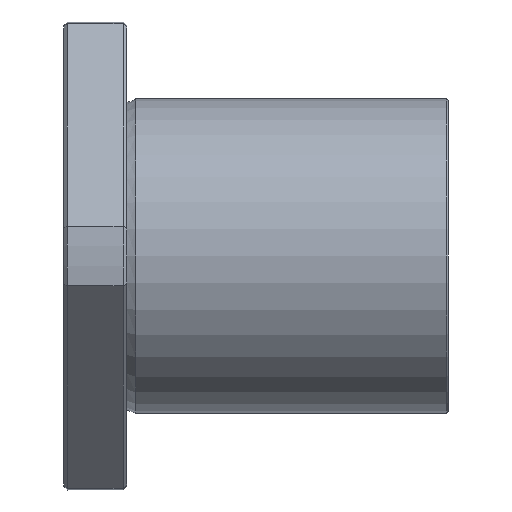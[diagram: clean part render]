
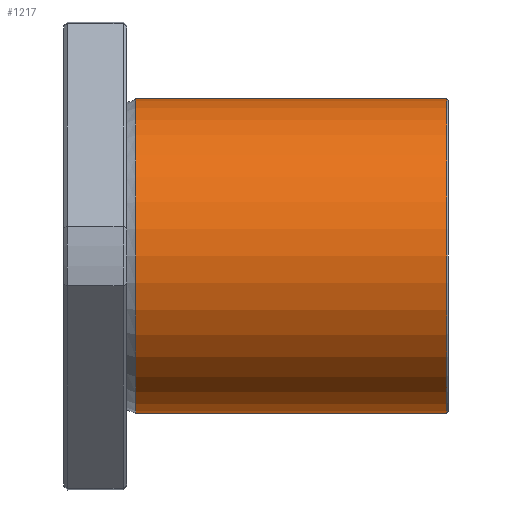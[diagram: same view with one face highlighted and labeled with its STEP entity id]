
A CAD part, front view. The second image highlights one B-rep face of the part: STEP entity #1217.
In plain terms, the highlighted cylindrical face has radius 45 mm (diameter 90 mm), a full revolution.
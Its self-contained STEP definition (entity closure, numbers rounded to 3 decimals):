
#1183=CARTESIAN_POINT('',(109.527,0.0,45.));
#1184=VERTEX_POINT('',#1183);
#1185=CARTESIAN_POINT('',(109.527,0.0,0.0));
#1186=DIRECTION('',(-1.0,0.0,0.0));
#1187=DIRECTION('',(0.0,0.0,1.0));
#1188=AXIS2_PLACEMENT_3D('',#1185,#1186,#1187);
#1189=CIRCLE('',#1188,45.);
#1190=EDGE_CURVE('',#1184,#1184,#1189,.T.);
#1198=CARTESIAN_POINT('',(65.036,0.0,0.0));
#1199=DIRECTION('',(-1.0,0.0,0.0));
#1200=DIRECTION('',(0.0,0.0,1.0));
#1201=AXIS2_PLACEMENT_3D('',#1198,#1199,#1200);
#1202=CYLINDRICAL_SURFACE('',#1201,45.);
#1203=CARTESIAN_POINT('',(20.546,0.0,45.0));
#1204=VERTEX_POINT('',#1203);
#1205=CARTESIAN_POINT('',(20.546,0.0,0.0));
#1206=DIRECTION('',(-1.0,0.0,0.0));
#1207=DIRECTION('',(0.0,0.0,1.0));
#1208=AXIS2_PLACEMENT_3D('',#1205,#1206,#1207);
#1209=CIRCLE('',#1208,45.0);
#1210=EDGE_CURVE('',#1204,#1204,#1209,.T.);
#1211=ORIENTED_EDGE('',*,*,#1210,.F.);
#1212=EDGE_LOOP('',(#1211));
#1213=FACE_OUTER_BOUND('',#1212,.T.);
#1214=ORIENTED_EDGE('',*,*,#1190,.T.);
#1215=EDGE_LOOP('',(#1214));
#1216=FACE_BOUND('',#1215,.T.);
#1217=ADVANCED_FACE('',(#1213,#1216),#1202,.T.);
